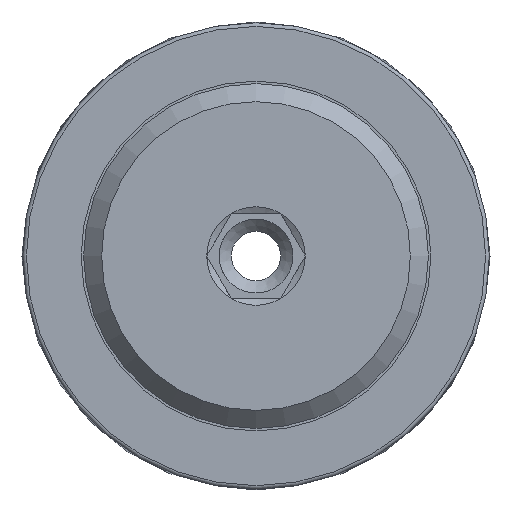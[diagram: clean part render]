
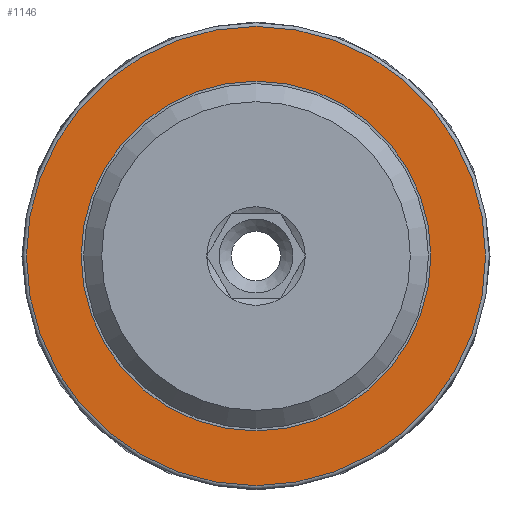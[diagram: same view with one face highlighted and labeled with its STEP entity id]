
A CAD part, front view. The second image highlights one B-rep face of the part: STEP entity #1146.
In plain terms, the highlighted planar face has unit normal (0, -1, 0).
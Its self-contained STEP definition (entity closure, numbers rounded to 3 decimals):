
#151=FACE_BOUND('',#458,.T.);
#293=PLANE('',#1409);
#363=FACE_OUTER_BOUND('',#457,.T.);
#457=EDGE_LOOP('',(#1005));
#458=EDGE_LOOP('',(#1006));
#540=CIRCLE('',#1408,9.321);
#541=CIRCLE('',#1410,7.1);
#634=VERTEX_POINT('',#2221);
#635=VERTEX_POINT('',#2225);
#762=EDGE_CURVE('',#634,#634,#540,.T.);
#763=EDGE_CURVE('',#635,#635,#541,.T.);
#1005=ORIENTED_EDGE('',*,*,#762,.F.);
#1006=ORIENTED_EDGE('',*,*,#763,.T.);
#1146=ADVANCED_FACE('',(#363,#151),#293,.T.);
#1408=AXIS2_PLACEMENT_3D('',#2223,#1736,#1737);
#1409=AXIS2_PLACEMENT_3D('',#2224,#1738,#1739);
#1410=AXIS2_PLACEMENT_3D('',#2226,#1740,#1741);
#1736=DIRECTION('center_axis',(0.,1.,0.));
#1737=DIRECTION('ref_axis',(0.,0.,-1.));
#1738=DIRECTION('center_axis',(0.,-1.,0.));
#1739=DIRECTION('ref_axis',(0.,0.,-1.));
#1740=DIRECTION('center_axis',(0.,1.,0.));
#1741=DIRECTION('ref_axis',(1.,0.,0.));
#2221=CARTESIAN_POINT('',(0.,0.4,-9.321));
#2223=CARTESIAN_POINT('Origin',(0.,0.4,0.));
#2224=CARTESIAN_POINT('Origin',(0.,0.4,9.47));
#2225=CARTESIAN_POINT('',(0.,0.4,-7.1));
#2226=CARTESIAN_POINT('Origin',(0.,0.4,0.));
